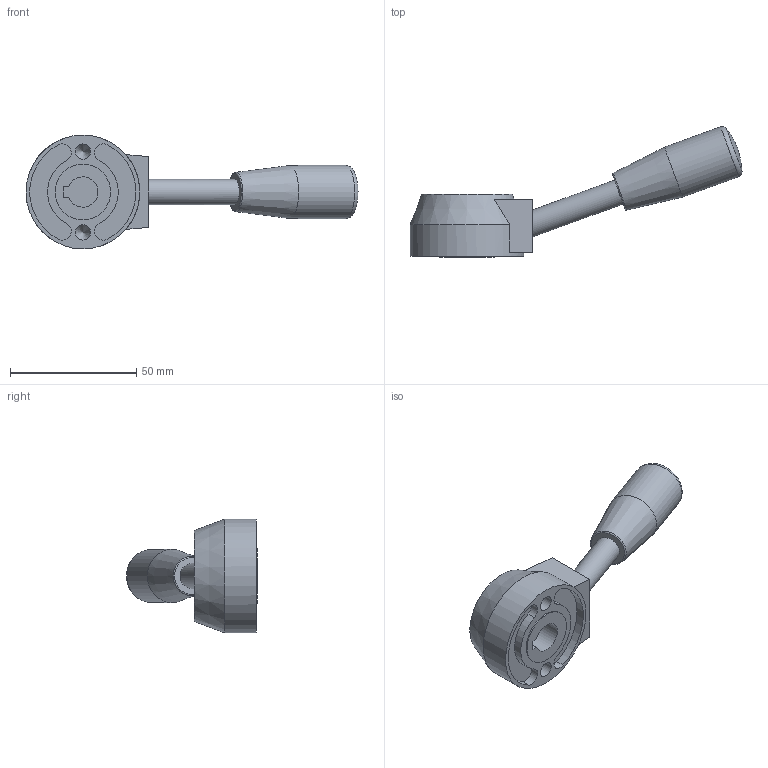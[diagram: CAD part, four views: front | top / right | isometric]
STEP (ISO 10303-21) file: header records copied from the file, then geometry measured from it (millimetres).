
FILE_DESCRIPTION( ( 'STEP AP203' ), '1' );
FILE_NAME( 'C:/Temp/Ganter_Step_05_03_2020/data/2_1/gn_512/gn_512_k/Control lever GN 512-45-K12.stp', '2020-03-05T11:51:40', ( 'License CC BY-ND 4.0' ), ( 'CADENAS' ), ' ', 'PARTsolutions', ' ' );
FILE_SCHEMA( ( 'CONFIG_CONTROL_DESIGN' ) );
Length unit declared in the file: millimetre
Products named in the file (1): _Control lever GN 512-45-K12
Bounding box: 131.34 x 51.82 x 45 mm (x, y, z)
Volume: 51255.4 mm3; surface area: 13525 mm2
Topology: 1 solids, 1 shells, 39 faces, 88 edges, 57 vertices
Faces by surface type: plane 16, cylinder 16, cone 4, torus 2, sphere 1
Full cylindrical faces by diameter (mm): 6 x2, 10 x1, 21 x1, 22 x1, 25 x1, 45 x1
Entity records: 1042 total; most frequent: DIRECTION 184, CARTESIAN_POINT 176, ORIENTED_EDGE 136, AXIS2_PLACEMENT_3D 78, EDGE_CURVE 68, EDGE_LOOP 59, VERTEX_POINT 54, FACE_OUTER_BOUND 48
